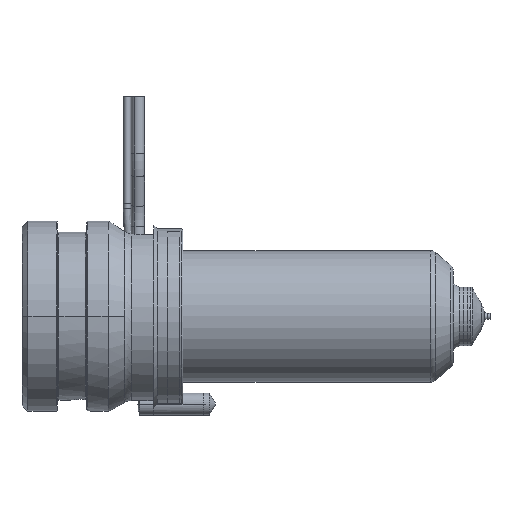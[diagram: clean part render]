
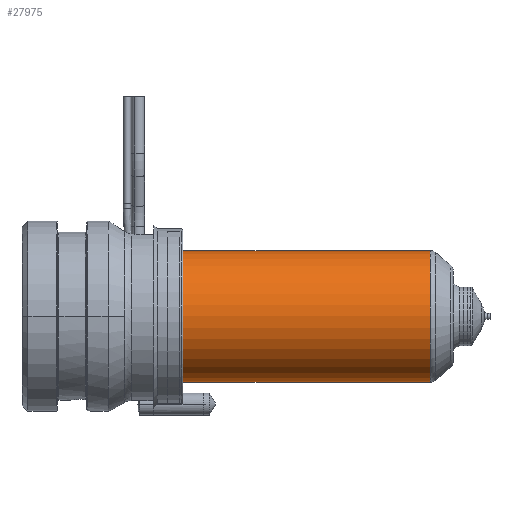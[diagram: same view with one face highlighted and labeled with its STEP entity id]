
A CAD part, left-side view. The second image highlights one B-rep face of the part: STEP entity #27975.
In plain terms, the highlighted cylindrical face has radius 9 mm (diameter 18 mm), a partial arc.
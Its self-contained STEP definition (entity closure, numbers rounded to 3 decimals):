
#27358=CARTESIAN_POINT('',(0.,-55.836,0.));
#27359=DIRECTION('',(0.,-1.,0.));
#27360=DIRECTION('',(0.,0.,1.));
#27361=AXIS2_PLACEMENT_3D('',#27358,#27359,#27360);
#27366=CARTESIAN_POINT('',(0.,-22.,0.));
#27367=DIRECTION('',(0.,-1.,0.));
#27368=DIRECTION('',(0.,0.,1.));
#27369=AXIS2_PLACEMENT_3D('',#27366,#27367,#27368);
#27374=DIRECTION('',(0.,-1.,0.));
#27375=VECTOR('',#27374,33.836);
#27376=CARTESIAN_POINT('',(0.,-22.,9.));
#27377=LINE('',#27376,#27375);
#27389=DIRECTION('',(0.,-1.,0.));
#27390=VECTOR('',#27389,33.836);
#27391=CARTESIAN_POINT('',(0.,-22.,-9.));
#27392=LINE('',#27391,#27390);
#27592=CARTESIAN_POINT('',(0.,-22.,9.));
#27593=CARTESIAN_POINT('',(0.,-55.836,9.));
#27594=VERTEX_POINT('',#27592);
#27595=VERTEX_POINT('',#27593);
#27618=CARTESIAN_POINT('',(0.,-22.,-9.));
#27619=CARTESIAN_POINT('',(0.,-55.836,-9.));
#27620=VERTEX_POINT('',#27618);
#27621=VERTEX_POINT('',#27619);
#27961=CARTESIAN_POINT('',(0.,-15.7,0.));
#27962=DIRECTION('',(0.,-1.,0.));
#27963=DIRECTION('',(0.,0.,1.));
#27964=AXIS2_PLACEMENT_3D('',#27961,#27962,#27963);
#27965=CYLINDRICAL_SURFACE('',#27964,9.);
#27967=ORIENTED_EDGE('',*,*,#27966,.T.);
#27968=ORIENTED_EDGE('',*,*,#27956,.T.);
#27970=ORIENTED_EDGE('',*,*,#27969,.F.);
#27972=ORIENTED_EDGE('',*,*,#27971,.F.);
#27973=EDGE_LOOP('',(#27967,#27968,#27970,#27972));
#27974=FACE_OUTER_BOUND('',#27973,.F.);
#27975=ADVANCED_FACE('',(#27974),#27965,.T.);
#27362=CIRCLE('',#27361,9.);
#27370=CIRCLE('',#27369,9.);
#27956=EDGE_CURVE('',#27595,#27621,#27362,.T.);
#27966=EDGE_CURVE('',#27594,#27595,#27377,.T.);
#27969=EDGE_CURVE('',#27620,#27621,#27392,.T.);
#27971=EDGE_CURVE('',#27594,#27620,#27370,.T.);
